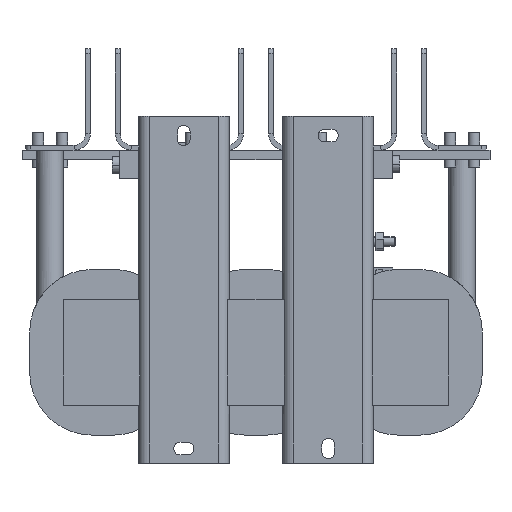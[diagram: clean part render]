
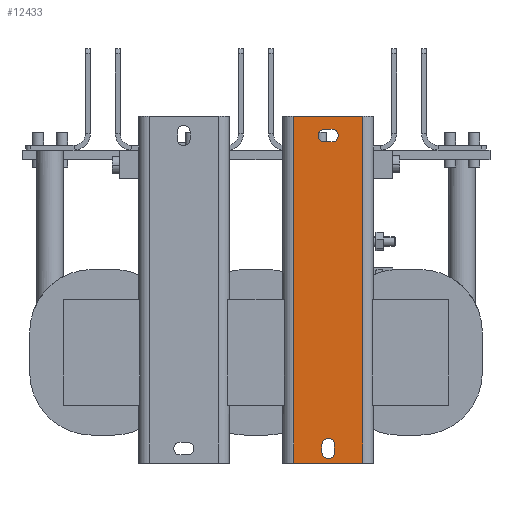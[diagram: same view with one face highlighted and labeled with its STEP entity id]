
A CAD part, front view. The second image highlights one B-rep face of the part: STEP entity #12433.
In plain terms, the highlighted planar face has unit normal (0, -1, 0).
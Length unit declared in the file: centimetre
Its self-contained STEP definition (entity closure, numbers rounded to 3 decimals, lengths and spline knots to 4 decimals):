
#12 = CARTESIAN_POINT ( 'NONE',  ( 7.5, 0., -9.6 ) ) ;
#56 = LINE ( 'NONE', #3721, #8983 ) ;
#118 = VECTOR ( 'NONE', #22735, 100. ) ;
#221 = LINE ( 'NONE', #16261, #7179 ) ;
#569 = ORIENTED_EDGE ( 'NONE', *, *, #17134, .T. ) ;
#670 = FACE_OUTER_BOUND ( 'NONE', #14219, .T. ) ;
#899 = CARTESIAN_POINT ( 'NONE',  ( 7.9, 0., 21.85 ) ) ;
#1019 = CARTESIAN_POINT ( 'NONE',  ( 7.5, 0., 6.5 ) ) ;
#1338 = CIRCLE ( 'NONE', #12244, 0.65 ) ;
#1369 = LINE ( 'NONE', #13848, #4553 ) ;
#1772 = EDGE_CURVE ( 'NONE', #20036, #12694, #1369, .T. ) ;
#1866 = CARTESIAN_POINT ( 'NONE',  ( 7.1, 0., 21.85 ) ) ;
#2046 = EDGE_CURVE ( 'NONE', #4961, #7366, #221, .T. ) ;
#2313 = ORIENTED_EDGE ( 'NONE', *, *, #1772, .T. ) ;
#3292 = DIRECTION ( 'NONE',  ( 0., 0., -1. ) ) ;
#3473 = CARTESIAN_POINT ( 'NONE',  ( 7.9, 0., 22.5 ) ) ;
#3515 = EDGE_LOOP ( 'NONE', ( #18259, #21504, #12343, #8076, #19250 ) ) ;
#3721 = CARTESIAN_POINT ( 'NONE',  ( 7.9, 0., 21.85 ) ) ;
#4218 = FACE_BOUND ( 'NONE', #3515, .T. ) ;
#4553 = VECTOR ( 'NONE', #19432, 100. ) ;
#4773 = AXIS2_PLACEMENT_3D ( 'NONE', #11906, #15080, #9786 ) ;
#4961 = VERTEX_POINT ( 'NONE', #12130 ) ;
#4981 = LINE ( 'NONE', #14037, #19046 ) ;
#5321 = DIRECTION ( 'NONE',  ( 0., 0., -1. ) ) ;
#5630 = CARTESIAN_POINT ( 'NONE',  ( 7.5, 0., -8.95 ) ) ;
#5755 = DIRECTION ( 'NONE',  ( 0., 1., 0. ) ) ;
#6078 = EDGE_CURVE ( 'NONE', #19297, #18677, #6786, .T. ) ;
#6268 = ORIENTED_EDGE ( 'NONE', *, *, #11548, .T. ) ;
#6786 = LINE ( 'NONE', #21073, #118 ) ;
#6960 = DIRECTION ( 'NONE',  ( -1., 0., 0. ) ) ;
#6972 = EDGE_CURVE ( 'NONE', #19297, #7927, #21494, .T. ) ;
#7004 = EDGE_CURVE ( 'NONE', #10980, #7927, #12132, .T. ) ;
#7077 = CARTESIAN_POINT ( 'NONE',  ( 3.9, 0., -5.55 ) ) ;
#7089 = CARTESIAN_POINT ( 'NONE',  ( 7.1, 0., 23.15 ) ) ;
#7179 = VECTOR ( 'NONE', #5321, 100. ) ;
#7207 = VERTEX_POINT ( 'NONE', #899 ) ;
#7366 = VERTEX_POINT ( 'NONE', #13860 ) ;
#7578 = DIRECTION ( 'NONE',  ( 0., 1., 0. ) ) ;
#7768 = CIRCLE ( 'NONE', #4773, 0.65 ) ;
#7927 = VERTEX_POINT ( 'NONE', #10254 ) ;
#8076 = ORIENTED_EDGE ( 'NONE', *, *, #2046, .T. ) ;
#8331 = ORIENTED_EDGE ( 'NONE', *, *, #6972, .T. ) ;
#8473 = AXIS2_PLACEMENT_3D ( 'NONE', #22029, #21915, #17989 ) ;
#8556 = ORIENTED_EDGE ( 'NONE', *, *, #10893, .F. ) ;
#8983 = VECTOR ( 'NONE', #20140, 100. ) ;
#9102 = DIRECTION ( 'NONE',  ( 0., 0., 1. ) ) ;
#9644 = DIRECTION ( 'NONE',  ( 0., 1., 0. ) ) ;
#9786 = DIRECTION ( 'NONE',  ( 0., 0., 1. ) ) ;
#9956 = CIRCLE ( 'NONE', #8473, 0.65 ) ;
#9993 = DIRECTION ( 'NONE',  ( 0., 0., 1. ) ) ;
#10254 = CARTESIAN_POINT ( 'NONE',  ( 3.9, 0., -11.5 ) ) ;
#10893 = EDGE_CURVE ( 'NONE', #18677, #10980, #17708, .T. ) ;
#10980 = VERTEX_POINT ( 'NONE', #20312 ) ;
#11027 = CARTESIAN_POINT ( 'NONE',  ( 6.85, 0., -9.6 ) ) ;
#11086 = CARTESIAN_POINT ( 'NONE',  ( 6.85, 0., -10.4 ) ) ;
#11221 = VERTEX_POINT ( 'NONE', #1866 ) ;
#11332 = CARTESIAN_POINT ( 'NONE',  ( 7.9, 0., 23.15 ) ) ;
#11548 = EDGE_CURVE ( 'NONE', #7207, #11221, #56, .T. ) ;
#11770 = ORIENTED_EDGE ( 'NONE', *, *, #6078, .F. ) ;
#11906 = CARTESIAN_POINT ( 'NONE',  ( 7.5, 0., -9.6 ) ) ;
#11983 = EDGE_CURVE ( 'NONE', #12651, #16908, #7768, .T. ) ;
#12130 = CARTESIAN_POINT ( 'NONE',  ( 8.15, 0., -9.6 ) ) ;
#12132 = LINE ( 'NONE', #17793, #20550 ) ;
#12244 = AXIS2_PLACEMENT_3D ( 'NONE', #3473, #14202, #15616 ) ;
#12343 = ORIENTED_EDGE ( 'NONE', *, *, #17683, .T. ) ;
#12433 = ADVANCED_FACE ( 'NONE', ( #670, #13291, #4218 ), #15404, .F. ) ;
#12651 = VERTEX_POINT ( 'NONE', #11027 ) ;
#12694 = VERTEX_POINT ( 'NONE', #11332 ) ;
#13291 = FACE_BOUND ( 'NONE', #19023, .T. ) ;
#13359 = DIRECTION ( 'NONE',  ( 0., 0., 1. ) ) ;
#13848 = CARTESIAN_POINT ( 'NONE',  ( 7.9, 0., 23.15 ) ) ;
#13860 = CARTESIAN_POINT ( 'NONE',  ( 8.15, 0., -10.4 ) ) ;
#13884 = VECTOR ( 'NONE', #21408, 100. ) ;
#14037 = CARTESIAN_POINT ( 'NONE',  ( 6.85, 0., -9.6 ) ) ;
#14202 = DIRECTION ( 'NONE',  ( 0., 1., 0. ) ) ;
#14219 = EDGE_LOOP ( 'NONE', ( #11770, #8331, #15230, #8556 ) ) ;
#14934 = EDGE_CURVE ( 'NONE', #11221, #20036, #9956, .T. ) ;
#15080 = DIRECTION ( 'NONE',  ( 0., 1., 0. ) ) ;
#15230 = ORIENTED_EDGE ( 'NONE', *, *, #7004, .F. ) ;
#15404 = PLANE ( 'NONE',  #22143 ) ;
#15589 = EDGE_CURVE ( 'NONE', #15780, #12651, #4981, .T. ) ;
#15616 = DIRECTION ( 'NONE',  ( 0., 0., 1. ) ) ;
#15780 = VERTEX_POINT ( 'NONE', #11086 ) ;
#15932 = CARTESIAN_POINT ( 'NONE',  ( 11.1, 0., -5.55 ) ) ;
#16261 = CARTESIAN_POINT ( 'NONE',  ( 8.15, 0., -9.6 ) ) ;
#16350 = VECTOR ( 'NONE', #3292, 100. ) ;
#16908 = VERTEX_POINT ( 'NONE', #5630 ) ;
#17134 = EDGE_CURVE ( 'NONE', #12694, #7207, #1338, .T. ) ;
#17582 = DIRECTION ( 'NONE',  ( 0., 0., 1. ) ) ;
#17610 = ORIENTED_EDGE ( 'NONE', *, *, #14934, .T. ) ;
#17683 = EDGE_CURVE ( 'NONE', #16908, #4961, #20761, .T. ) ;
#17708 = LINE ( 'NONE', #15932, #13884 ) ;
#17793 = CARTESIAN_POINT ( 'NONE',  ( 7.5, 0., -11.5 ) ) ;
#17989 = DIRECTION ( 'NONE',  ( 0., 0., 1. ) ) ;
#18259 = ORIENTED_EDGE ( 'NONE', *, *, #15589, .T. ) ;
#18304 = CARTESIAN_POINT ( 'NONE',  ( 11.1, 0., 24.5 ) ) ;
#18510 = CARTESIAN_POINT ( 'NONE',  ( 3.9, 0., 24.5 ) ) ;
#18522 = EDGE_CURVE ( 'NONE', #7366, #15780, #18840, .T. ) ;
#18677 = VERTEX_POINT ( 'NONE', #18304 ) ;
#18840 = CIRCLE ( 'NONE', #21122, 0.65 ) ;
#19023 = EDGE_LOOP ( 'NONE', ( #2313, #569, #6268, #17610 ) ) ;
#19046 = VECTOR ( 'NONE', #17582, 100. ) ;
#19250 = ORIENTED_EDGE ( 'NONE', *, *, #18522, .T. ) ;
#19297 = VERTEX_POINT ( 'NONE', #18510 ) ;
#19432 = DIRECTION ( 'NONE',  ( 1., 0., 0. ) ) ;
#20000 = AXIS2_PLACEMENT_3D ( 'NONE', #12, #7578, #9102 ) ;
#20036 = VERTEX_POINT ( 'NONE', #7089 ) ;
#20140 = DIRECTION ( 'NONE',  ( -1., 0., 0. ) ) ;
#20312 = CARTESIAN_POINT ( 'NONE',  ( 11.1, 0., -11.5 ) ) ;
#20550 = VECTOR ( 'NONE', #6960, 100. ) ;
#20761 = CIRCLE ( 'NONE', #20000, 0.65 ) ;
#21073 = CARTESIAN_POINT ( 'NONE',  ( 7.5, 0., 24.5 ) ) ;
#21122 = AXIS2_PLACEMENT_3D ( 'NONE', #22369, #5755, #13359 ) ;
#21408 = DIRECTION ( 'NONE',  ( 0., 0., -1. ) ) ;
#21494 = LINE ( 'NONE', #7077, #16350 ) ;
#21504 = ORIENTED_EDGE ( 'NONE', *, *, #11983, .T. ) ;
#21915 = DIRECTION ( 'NONE',  ( 0., 1., 0. ) ) ;
#22029 = CARTESIAN_POINT ( 'NONE',  ( 7.1, 0., 22.5 ) ) ;
#22143 = AXIS2_PLACEMENT_3D ( 'NONE', #1019, #9644, #9993 ) ;
#22369 = CARTESIAN_POINT ( 'NONE',  ( 7.5, 0., -10.4 ) ) ;
#22735 = DIRECTION ( 'NONE',  ( 1., 0., 0. ) ) ;
